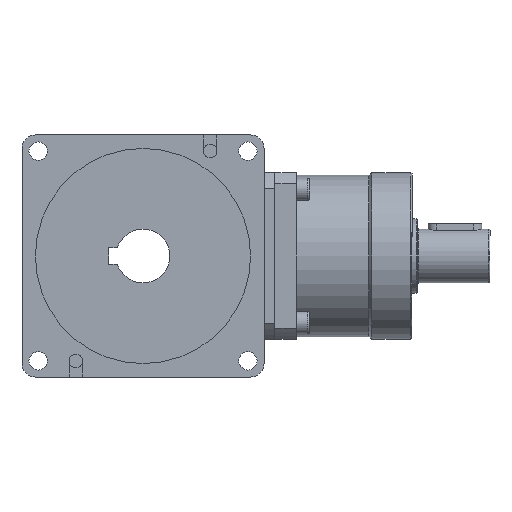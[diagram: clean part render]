
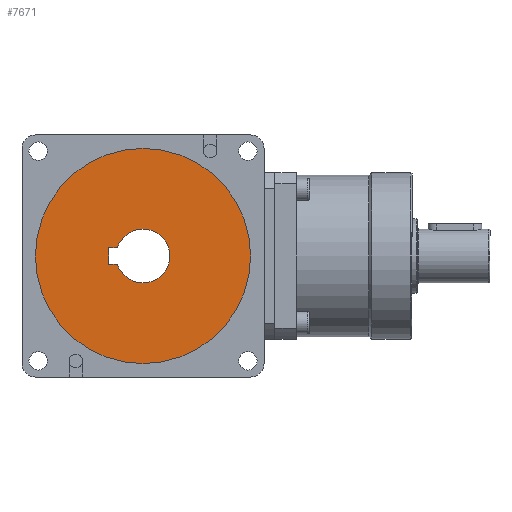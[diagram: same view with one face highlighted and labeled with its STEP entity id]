
A CAD part, left-side view. The second image highlights one B-rep face of the part: STEP entity #7671.
In plain terms, the highlighted planar face has unit normal (-1, 0, 0).
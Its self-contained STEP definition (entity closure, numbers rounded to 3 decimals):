
#107 = AXIS2_PLACEMENT_3D ( 'NONE', #8762, #13304, #11262 ) ;
#172 = FACE_BOUND ( 'NONE', #5617, .T. ) ;
#446 = VECTOR ( 'NONE', #5704, 1000. ) ;
#700 = LINE ( 'NONE', #10412, #9101 ) ;
#1436 = VERTEX_POINT ( 'NONE', #11944 ) ;
#1927 = AXIS2_PLACEMENT_3D ( 'NONE', #6335, #7119, #10338 ) ;
#2198 = CIRCLE ( 'NONE', #4013, 10. ) ;
#2281 = DIRECTION ( 'NONE',  ( -1., 0., 0. ) ) ;
#2471 = ORIENTED_EDGE ( 'NONE', *, *, #3131, .F. ) ;
#2832 = PLANE ( 'NONE',  #107 ) ;
#3025 = EDGE_CURVE ( 'NONE', #6327, #3283, #9607, .T. ) ;
#3131 = EDGE_CURVE ( 'NONE', #7502, #10549, #2198, .T. ) ;
#3283 = VERTEX_POINT ( 'NONE', #8813 ) ;
#3352 = CARTESIAN_POINT ( 'NONE',  ( -31.5, 0., 0. ) ) ;
#3661 = EDGE_CURVE ( 'NONE', #7310, #1436, #5630, .T. ) ;
#3861 = ORIENTED_EDGE ( 'NONE', *, *, #3661, .T. ) ;
#3971 = CARTESIAN_POINT ( 'NONE',  ( -31.5, 0., 40. ) ) ;
#4013 = AXIS2_PLACEMENT_3D ( 'NONE', #6567, #7553, #10645 ) ;
#4976 = DIRECTION ( 'NONE',  ( 0., 1., 0. ) ) ;
#5186 = CARTESIAN_POINT ( 'NONE',  ( -31.5, 12.8, -3. ) ) ;
#5470 = ORIENTED_EDGE ( 'NONE', *, *, #10322, .F. ) ;
#5617 = EDGE_LOOP ( 'NONE', ( #2471, #13549, #3861, #7719, #13704, #5470 ) ) ;
#5630 = LINE ( 'NONE', #9908, #446 ) ;
#5704 = DIRECTION ( 'NONE',  ( 0., 0., 1. ) ) ;
#6062 = CARTESIAN_POINT ( 'NONE',  ( -31.5, 0., -40. ) ) ;
#6098 = LINE ( 'NONE', #11355, #6547 ) ;
#6327 = VERTEX_POINT ( 'NONE', #9859 ) ;
#6335 = CARTESIAN_POINT ( 'NONE',  ( -31.5, 0., 0. ) ) ;
#6547 = VECTOR ( 'NONE', #4976, 1000. ) ;
#6567 = CARTESIAN_POINT ( 'NONE',  ( -31.5, 0., 0. ) ) ;
#6577 = VERTEX_POINT ( 'NONE', #3971 ) ;
#7119 = DIRECTION ( 'NONE',  ( -1., 0., 0. ) ) ;
#7227 = CARTESIAN_POINT ( 'NONE',  ( -31.5, 0., -10. ) ) ;
#7235 = CIRCLE ( 'NONE', #8799, 10. ) ;
#7259 = ORIENTED_EDGE ( 'NONE', *, *, #11901, .T. ) ;
#7310 = VERTEX_POINT ( 'NONE', #5186 ) ;
#7502 = VERTEX_POINT ( 'NONE', #12702 ) ;
#7553 = DIRECTION ( 'NONE',  ( -1., 0., 0. ) ) ;
#7645 = DIRECTION ( 'NONE',  ( 0., 0., 1. ) ) ;
#7671 = ADVANCED_FACE ( 'NONE', ( #172, #12465 ), #2832, .T. ) ;
#7719 = ORIENTED_EDGE ( 'NONE', *, *, #8233, .F. ) ;
#7998 = CIRCLE ( 'NONE', #1927, 40. ) ;
#8173 = EDGE_CURVE ( 'NONE', #13833, #6577, #7998, .T. ) ;
#8225 = EDGE_LOOP ( 'NONE', ( #7259, #12430 ) ) ;
#8233 = EDGE_CURVE ( 'NONE', #3283, #1436, #700, .T. ) ;
#8411 = CARTESIAN_POINT ( 'NONE',  ( -31.5, 0., 0. ) ) ;
#8762 = CARTESIAN_POINT ( 'NONE',  ( -31.5, 0., 0. ) ) ;
#8799 = AXIS2_PLACEMENT_3D ( 'NONE', #3352, #9821, #7645 ) ;
#8807 = AXIS2_PLACEMENT_3D ( 'NONE', #10786, #2281, #11980 ) ;
#8813 = CARTESIAN_POINT ( 'NONE',  ( -31.5, 9.539, 3. ) ) ;
#9101 = VECTOR ( 'NONE', #9553, 1000. ) ;
#9553 = DIRECTION ( 'NONE',  ( 0., 1., 0. ) ) ;
#9607 = CIRCLE ( 'NONE', #13653, 10. ) ;
#9821 = DIRECTION ( 'NONE',  ( -1., 0., 0. ) ) ;
#9859 = CARTESIAN_POINT ( 'NONE',  ( -31.5, 0., 10. ) ) ;
#9908 = CARTESIAN_POINT ( 'NONE',  ( -31.5, 12.8, 0. ) ) ;
#10322 = EDGE_CURVE ( 'NONE', #10549, #6327, #7235, .T. ) ;
#10338 = DIRECTION ( 'NONE',  ( 0., 0., 1. ) ) ;
#10372 = DIRECTION ( 'NONE',  ( -1., 0., 0. ) ) ;
#10412 = CARTESIAN_POINT ( 'NONE',  ( -31.5, 0., 3. ) ) ;
#10443 = DIRECTION ( 'NONE',  ( 0., 0., 1. ) ) ;
#10474 = EDGE_CURVE ( 'NONE', #7502, #7310, #6098, .T. ) ;
#10549 = VERTEX_POINT ( 'NONE', #7227 ) ;
#10645 = DIRECTION ( 'NONE',  ( 0., 0., 1. ) ) ;
#10786 = CARTESIAN_POINT ( 'NONE',  ( -31.5, 0., 0. ) ) ;
#11262 = DIRECTION ( 'NONE',  ( 0., 0., 1. ) ) ;
#11355 = CARTESIAN_POINT ( 'NONE',  ( -31.5, 0., -3. ) ) ;
#11901 = EDGE_CURVE ( 'NONE', #6577, #13833, #12159, .T. ) ;
#11944 = CARTESIAN_POINT ( 'NONE',  ( -31.5, 12.8, 3. ) ) ;
#11980 = DIRECTION ( 'NONE',  ( 0., 0., 1. ) ) ;
#12159 = CIRCLE ( 'NONE', #8807, 40. ) ;
#12430 = ORIENTED_EDGE ( 'NONE', *, *, #8173, .T. ) ;
#12465 = FACE_OUTER_BOUND ( 'NONE', #8225, .T. ) ;
#12702 = CARTESIAN_POINT ( 'NONE',  ( -31.5, 9.539, -3. ) ) ;
#13304 = DIRECTION ( 'NONE',  ( -1., 0., 0. ) ) ;
#13549 = ORIENTED_EDGE ( 'NONE', *, *, #10474, .T. ) ;
#13653 = AXIS2_PLACEMENT_3D ( 'NONE', #8411, #10372, #10443 ) ;
#13704 = ORIENTED_EDGE ( 'NONE', *, *, #3025, .F. ) ;
#13833 = VERTEX_POINT ( 'NONE', #6062 ) ;
